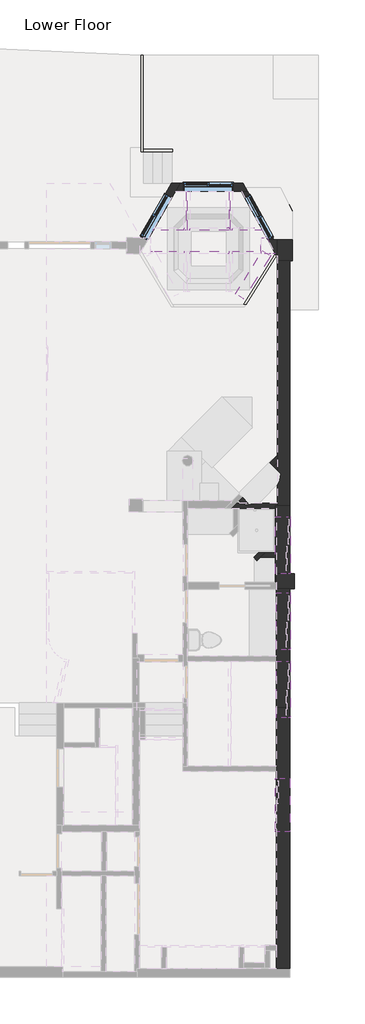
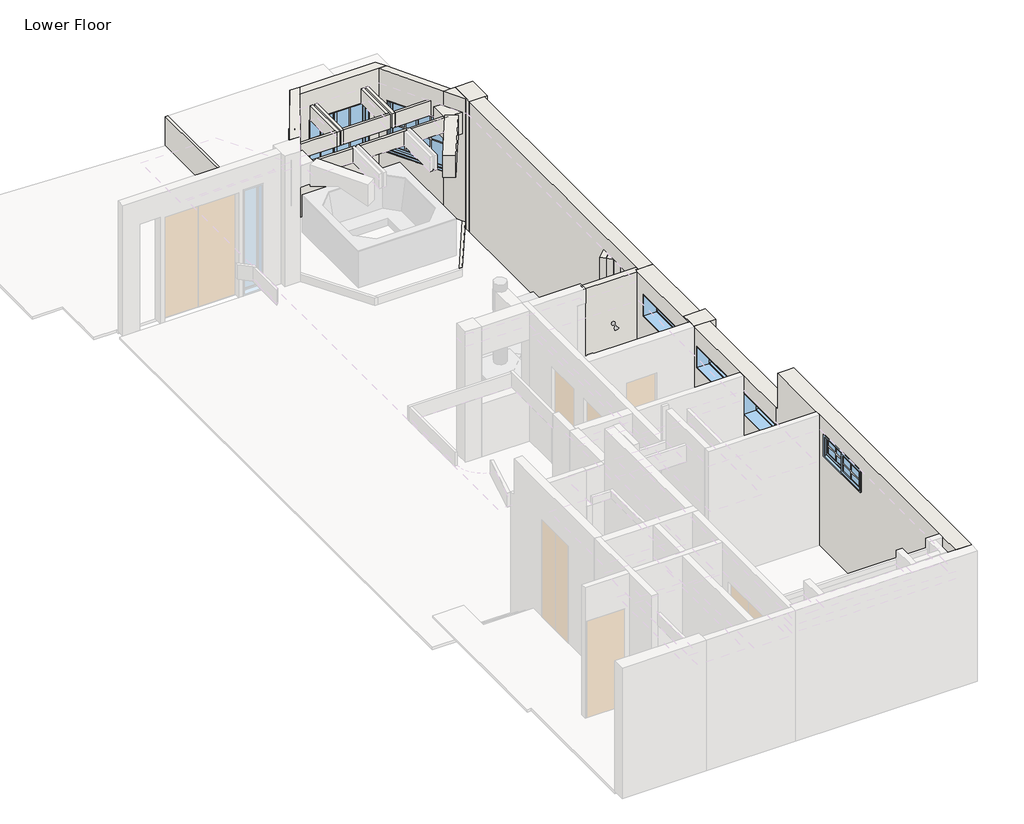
# One storey, part 3 of 4: 39 walls, 7 windows.
"""IFC4 building model written with IfcOpenShell, lengths in millimetres."""

from ifc_helpers import new_model, si_unit, frame, origin, place, context, project, spatial, polyline, circle_curve, outline, extrude, faceted_brep, transform, mapped, element, save
from ifc_brep_helpers import plane_surface, revolved_surface, advanced_brep
from components import default_1_4d84d3de, default_1_798206ea, default_1_4f1888e7, default_1_a34ab814, default_1_78cc1f86, default_1_0dcfb3a5

model = new_model("IFC4")

# Units and contexts
model_context = context("Model", 3, world=origin())
ifc_project = project(units=[si_unit("LENGTHUNIT", "METRE", prefix="MILLI")], contexts=[model_context])

# Site, building, storey
site = spatial("IfcSite", under=ifc_project)
building = spatial("IfcBuilding", under=site)
storey = spatial("IfcBuildingStorey", under=building, Name="Lower Floor", Elevation=-2743.2)

# Walls
placement = place(None, origin())
element("IfcWall", 1, ObjectType="Planitar - Generic 1' - 1/2\"", at=placement, inside=storey, context=model_context, shape_type="Brep", body=[
    faceted_brep([(1270.0, -2660.65, -1981.2), (1270.0, 2025.65, -1981.2), (1270.0, 2025.65, -2743.2), (1270.0, 3524.25, -2743.2), (1270.0, 3524.25, -812.8), (1270.0, 3289.3, -812.8), (1270.0, 3289.3, -355.6), (1270.0, 3524.25, -355.6), (1270.0, 3524.25, 0.0), (1270.0, 3467.1, 0.0), (1270.0, 3467.1, 762.0), (1270.0, -2660.65, 762.0), (1270.0, 1862.1375, 457.2), (1270.0, 1862.1375, 0.0), (1270.0, 592.1375, 0.0), (1270.0, 592.1375, 457.2), (952.5, 2025.65, -1981.2), (952.5, -2101.85, -1981.2), (952.5, -2216.15, -1981.2), (952.5, -2660.65, -1981.2), (952.5, -2660.65, 762.0), (952.5, -2216.15, 762.0), (952.5, -2101.85, 762.0), (952.5, 2025.65, 762.0), (952.5, 2139.95, 762.0), (952.5, 3467.1, 762.0), (952.5, 3467.1, 0.0), (952.5, 3524.25, 0.0), (952.5, 3524.25, -355.6), (952.5, 3289.3, -355.6), (952.5, 3289.3, -812.8), (952.5, 3524.25, -812.8), (952.5, 3524.25, -2743.2), (952.5, 2139.95, -2743.2), (952.5, 2025.65, -2743.2), (952.5, 1862.1375, 457.2), (952.5, 592.1375, 457.2), (952.5, 592.1375, 0.0), (952.5, 1862.1375, 0.0), (1104.9, 3467.1, 762.0)], [[[0, 1, 2, 3, 4, 5, 6, 7, 8, 9, 10, 11], [12, 13, 14, 15]], [[16, 17, 18, 19, 20, 21, 22, 23, 24, 25, 26, 27, 28, 29, 30, 31, 32, 33, 34], [35, 36, 37, 38]], [[0, 11, 20, 19]], [[1, 0, 19, 18, 17, 16]], [[11, 10, 39, 25, 24, 23, 22, 21, 20]], [[27, 8, 7, 28]], [[3, 32, 31, 4]], [[9, 8, 27, 26]], [[25, 39, 10, 9, 26]], [[3, 2, 34, 33, 32]], [[2, 1, 16, 34]], [[13, 12, 35, 38]], [[14, 13, 38, 37]], [[15, 14, 37, 36]], [[12, 15, 36, 35]], [[29, 6, 5, 30]], [[30, 5, 4, 31]], [[6, 29, 28, 7]]]),
])
element("IfcWall", 2, ObjectType="Planitar - Generic 11 1/2\"", at=placement, inside=storey, context=model_context, shape_type="AdvancedBrep", body=[
    advanced_brep(
    [(1270.0, 8318.5, -2743.2), (1270.0, 14128.75, -2743.2), (1270.0, 14128.75, 0.0), (1270.0, 8318.5, 0.0), (977.9, 14128.75, 0.0), (977.9, 14128.75, -2743.2), (977.9, 9509.0315, -2743.2), (977.9, 9347.3868898, -2743.2), (977.9, 9320.0723102, -2743.2), (977.9, 9158.4277, -2743.2), (977.9, 9158.4277, -304.8), (977.9, 8789.342644, -304.8), (977.9, 8789.342644, -2743.2), (977.9, 8375.65, -2743.2), (977.9, 8318.5, -2743.2), (977.9, 8318.5, 0.0), (977.9, 8375.65, 0.0), (1065.1673302, 9071.1603698, -2743.2), (1065.1673302, 9071.1603698, -304.8)],
    [
        (0, 1),
        (1, 2),
        (2, 3),
        (3, 0),
        (4, 5),
        (5, 6),
        (6, 7),
        (7, 8),
        (8, 9),
        (9, 10),
        (10, 11),
        (11, 12),
        (12, 13),
        (13, 14),
        (14, 15),
        (15, 16),
        (16, 4),
        (0, 14),
        (12, 17, circle_curve(frame((219.3431722, 9178.6568278, -2743.2), z_axis=(0.0, 0.0, 1.0), x_axis=(1.0, 0.0, 0.0)), 852.6277)),
        (17, 9),
        (5, 1),
        (4, 2),
        (15, 3),
        (10, 18),
        (18, 11, circle_curve(frame((219.3431722, 9178.6568278, -304.8), z_axis=(0.0, 0.0, -1.0), x_axis=(1.0, 0.0, 0.0)), 852.6277)),
        (18, 17),
    ],
    [
        plane_surface(frame((1270.0, 8369.3, -2743.2), z_axis=(1.0, 0.0, 0.0), x_axis=(0.0, 1.0, 0.0))),
        plane_surface(frame((977.9, 8369.3, -2743.2), z_axis=(-1.0, 0.0, 0.0), x_axis=(0.0, -1.0, 0.0))),
        plane_surface(frame((1270.0, 8318.5, -2743.2), z_axis=(0.0, 0.0, -1.0), x_axis=(-1.0, 0.0, 0.0))),
        plane_surface(frame((1270.0, 14128.75, -2743.2), z_axis=(0.0, 1.0, 0.0), x_axis=(-1.0, 0.0, 0.0))),
        plane_surface(frame((1270.0, 14128.75, 0.0), z_axis=(0.0, 0.0, 1.0), x_axis=(-1.0, 0.0, 0.0))),
        plane_surface(frame((1270.0, 8318.5, 0.0), z_axis=(0.0, -1.0, 0.0), x_axis=(-1.0, 0.0, 0.0))),
        plane_surface(frame((957.6708722, 9178.6568278, -304.8), z_axis=(0.0, 0.0, -1.0), x_axis=(0.0, -1.0, 0.0))),
        revolved_surface(polyline([(1071.9708722, 9178.6568278, -304.8000000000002), (1071.9708722, 9178.6568278, -2743.2)]), (219.3431722, 9178.6568278, -2743.2), (0.0, 0.0, 1.0)),
        plane_surface(frame((802.5981, 9333.7296, -2743.2), z_axis=(-0.7071067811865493, -0.7071067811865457, 0.0), x_axis=(0.7071067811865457, -0.7071067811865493, 0.0))),
    ],
    [
        (0, [[1, 2, 3, 4]]),
        (1, [[5, 6, 7, 8, 9, 10, 11, 12, 13, 14, 15, 16, 17]]),
        (2, [[-1, 18, -14, -13, 19, 20, -9, -8, -7, -6, 21]]),
        (3, [[-2, -21, -5, 22]]),
        (4, [[-3, -22, -17, -16, 23]]),
        (5, [[-4, -23, -15, -18]]),
        (6, [[24, 25, -11]]),
        (7, [[26, -19, -12, -25]]),
        (8, [[-26, -24, -10, -20]]),
    ],
),
])
element("IfcWall", 3, ObjectType="Planitar - Generic 1' - 2\"", at=placement, inside=storey, context=model_context, shape_type="Brep", body=[
    faceted_brep([(1333.5, 14128.75, -2743.2), (1333.5, 14624.05, -2743.2), (1333.5, 14624.05, -2133.6), (1333.5, 14624.05, -2032.0), (1333.5, 14624.05, 0.0), (1333.5, 14128.75, 0.0), (977.9, 14128.75, -2743.2), (977.9, 14128.75, 0.0), (977.9, 14243.05, 0.0), (977.9, 14624.05, 0.0), (977.9, 14624.05, -2743.2), (977.9, 14243.05, -2743.2), (1270.0, 14128.75, -2743.2), (1270.0, 14128.75, 0.0)], [[[0, 1, 2, 3, 4, 5]], [[6, 7, 8, 9, 10, 11]], [[1, 0, 12, 6, 11, 10]], [[5, 4, 9, 8, 7, 13]], [[0, 5, 13, 7, 6, 12]], [[1, 10, 9, 4, 3, 2]]]),
])
element("IfcWall", 4, ObjectType="Planitar - Generic 7\"", at=placement, inside=storey, context=model_context, shape_type="Brep", body=[
    faceted_brep([(-2069.9799429, 14674.85, -2743.2), (-1441.5518, 15773.4, -2743.2), (-1332.5758215, 15963.9, -2743.2), (-1332.5758215, 15963.9, 0.0), (-1441.5518, 15773.4, 0.0), (-2069.9799429, 14674.85, 0.0), (-2069.9799429, 14674.85, -304.8), (-2069.9799429, 14674.85, -609.6), (-1968.2690296, 14852.65, -609.6), (-1939.2087687, 14903.45, -609.6), (-1524.0850409, 15629.1243293, -609.6), (-1524.0850409, 15629.1243293, -1701.8), (-2069.9799429, 14674.85, -1701.8), (-1537.4122193, 15963.9, -2743.2), (-1689.9785893, 15697.2, -2743.2), (-1719.0388502, 15646.4, -2743.2), (-2274.8163408, 14674.85, -2743.2), (-2274.8163408, 14674.85, 0.0), (-1537.4122193, 15963.9, 0.0), (-1678.4171827, 15717.4103984, -1701.8), (-1678.4171827, 15717.4103984, -609.6), (-2258.58278, 14703.2277523, -609.6), (-2258.58278, 14703.2277523, -1701.8), (-2208.9758677, 14674.85, -1701.8), (-2208.9758677, 14674.85, -609.6), (-2208.9758677, 14674.85, -762.0)], [[[0, 1, 2, 3, 4, 5, 6, 7, 8, 9, 10, 11, 12]], [[13, 14, 15, 16, 17, 18], [19, 20, 21, 22]], [[2, 1, 0, 16, 15, 14, 13]], [[5, 4, 3, 18, 17]], [[3, 2, 13, 18]], [[10, 20, 19, 11]], [[11, 19, 22, 23, 12]], [[23, 22, 21, 24, 25]], [[20, 10, 9, 8, 7, 24, 21]], [[16, 0, 12, 23, 25, 24, 7, 6, 5, 17]]]),
])
element("IfcWall", 5, ObjectType="Planitar - Generic 7 1/2\"", at=placement, inside=storey, context=model_context, shape_type="Brep", body=[
    faceted_brep([(-1441.5518, 15773.4, -2743.2), (125.7251, 15773.4, -2743.2), (270.3252409, 15773.4, -2743.2), (270.3252409, 15773.4, 0.0), (125.7251, 15773.4, 0.0), (-1441.5518, 15773.4, 0.0), (-64.838534, 15773.4, -609.6), (-64.838534, 15773.4, -1701.8), (-1258.638534, 15773.4, -1701.8), (-1258.638534, 15773.4, -609.6), (-1238.3518, 15773.4, -609.6), (-1187.5518, 15773.4, -609.6), (-1149.4518, 15773.4, -609.6), (-1098.6518, 15773.4, -609.6), (-224.825268, 15773.4, -609.6), (-174.025268, 15773.4, -609.6), (-134.688534, 15773.4, -609.6), (-83.888534, 15773.4, -609.6), (-1332.5758215, 15963.9, -2743.2), (-1332.5758215, 15963.9, 0.0), (166.6167471, 15963.9, 0.0), (166.6167471, 15963.9, -2743.2), (-64.838534, 15963.9, -609.6), (-1258.638534, 15963.9, -609.6), (-1258.638534, 15963.9, -1701.8), (-64.838534, 15963.9, -1701.8)], [[[0, 1, 2, 3, 4, 5], [6, 7, 8, 9, 10, 11, 12, 13, 14, 15, 16, 17]], [[18, 19, 20, 21], [22, 23, 24, 25]], [[2, 1, 0, 18, 21]], [[5, 4, 3, 20, 19]], [[0, 5, 19, 18]], [[7, 6, 22, 25]], [[8, 7, 25, 24]], [[9, 8, 24, 23]], [[6, 17, 16, 15, 14, 13, 12, 11, 10, 9, 23, 22]], [[2, 21, 20, 3]]]),
])
element("IfcWall", 6, ObjectType="Planitar - Generic 5\"", at=placement, inside=storey, context=model_context, shape_type="Brep", body=[
    faceted_brep([(125.7251, 15773.4, -2743.2), (751.4330124, 14624.05, -2743.2), (751.4330124, 14624.05, -1701.8), (202.1206046, 15633.0706682, -1701.8), (202.1206046, 15633.0706682, -609.6), (599.3272216, 14903.45, -609.6), (626.9828199, 14852.65, -609.6), (751.4330124, 14624.05, -609.6), (751.4330124, 14624.05, 0.0), (125.7251, 15773.4, 0.0), (896.0331533, 14624.05, -2743.2), (270.3252409, 15773.4, -2743.2), (270.3252409, 15773.4, 0.0), (896.0331533, 14624.05, 0.0), (872.3205239, 14667.6072415, -1701.8), (872.3205239, 14667.6072415, -609.6), (313.6626813, 15693.7943468, -609.6), (313.6626813, 15693.7943468, -1701.8), (792.3111224, 14624.05, -609.6), (792.3111224, 14624.05, -1701.8)], [[[0, 1, 2, 3, 4, 5, 6, 7, 8, 9]], [[10, 11, 12, 13], [14, 15, 16, 17]], [[1, 0, 11, 10]], [[9, 8, 13, 12]], [[18, 15, 14, 19]], [[19, 14, 17, 3, 2]], [[3, 17, 16, 4]], [[15, 18, 7, 6, 5, 4, 16]], [[1, 10, 13, 8, 7, 18, 19, 2]], [[9, 12, 11, 0]]]),
])
element("IfcWall", 7, ObjectType="Planitar - Generic 1' - 3\"", at=placement, inside=storey, context=model_context, shape_type="Brep", body=[
    faceted_brep([(977.9, 14624.05, -2743.2), (896.0331533, 14624.05, -2743.2), (751.4330124, 14624.05, -2743.2), (751.4330124, 14624.05, -1701.8), (792.3111224, 14624.05, -1701.8), (792.3111224, 14624.05, -609.6), (751.4330124, 14624.05, -609.6), (751.4330124, 14624.05, 0.0), (896.0331533, 14624.05, 0.0), (977.9, 14624.05, 0.0), (958.85, 14243.05, -2743.2), (977.9, 14243.05, -2743.2), (977.9, 14243.05, 0.0), (958.85, 14243.05, 0.0), (760.7784472, 14606.883563, -609.6), (760.7784472, 14606.883563, -1701.8)], [[[0, 1, 2, 3, 4, 5, 6, 7, 8, 9]], [[10, 11, 12, 13]], [[2, 1, 0, 11, 10]], [[9, 8, 7, 13, 12]], [[14, 5, 4, 15]], [[15, 4, 3]], [[5, 14, 6]], [[2, 10, 13, 7, 6, 14, 15, 3]], [[9, 12, 11, 0]]]),
])
element("IfcWall", 8, ObjectType="Planitar - Generic 4 1/2\"", at=placement, inside=storey, context=model_context, shape_type="AdvancedBrep", body=[
    advanced_brep(
    [(-108.1368898, 8261.35, -2743.2), (-69.85, 8261.35, -2743.2), (44.45, 8261.35, -2743.2), (927.1, 8261.35, -2743.2), (927.1, 8261.35, 0.0), (-131.8091949, 8261.35, 0.0), (-131.8091949, 8261.35, -304.8), (-108.1368898, 8261.35, -304.8), (977.9, 8375.65, 0.0), (977.9, 8375.65, -2743.2), (505.968414, 8375.65, -2743.2), (505.968414, 8375.65, -304.8), (284.0223, 8375.65, -304.8), (195.0690884, 8375.65, -304.8), (195.0690884, 8375.65, -2743.2), (122.3776898, 8375.65, -2743.2), (6.1631102, 8375.65, -2743.2), (6.1631102, 8375.65, -304.8), (-131.8091949, 8375.65, -304.8), (-131.8091949, 8375.65, 0.0), (193.5808676, 8326.4184231, -2743.2), (977.9, 8318.5, -2743.2), (927.1, 8318.5, -2743.2), (927.1, 8318.5, 0.0), (977.9, 8318.5, 0.0), (193.5808676, 8326.4184231, -304.8)],
    [
        (0, 1),
        (1, 2),
        (2, 3),
        (3, 4),
        (4, 5),
        (5, 6),
        (6, 7),
        (7, 0),
        (8, 9),
        (9, 10),
        (10, 11),
        (11, 12),
        (12, 13),
        (13, 14),
        (14, 15),
        (15, 16),
        (16, 17),
        (17, 18),
        (18, 19),
        (19, 8),
        (0, 16),
        (14, 20),
        (20, 10, circle_curve(frame((219.3431722, 9178.6568278, -2743.2), z_axis=(0.0, 0.0, 1.0), x_axis=(1.0, 0.0, 0.0)), 852.6277)),
        (9, 21),
        (21, 22),
        (22, 3),
        (4, 23),
        (23, 24),
        (24, 8),
        (19, 5),
        (22, 23),
        (21, 24),
        (18, 6),
        (17, 7),
        (11, 25, circle_curve(frame((219.3431722, 9178.6568278, -304.8), z_axis=(0.0, 0.0, -1.0), x_axis=(1.0, 0.0, 0.0)), 852.6277)),
        (25, 13),
        (25, 20),
    ],
    [
        plane_surface(frame((-107.95, 8261.35, -2743.2), z_axis=(0.0, -1.0, 0.0), x_axis=(1.0, 0.0, 0.0))),
        plane_surface(frame((-107.95, 8375.65, -2743.2), z_axis=(0.0, 1.0, 0.0), x_axis=(-1.0, 0.0, 0.0))),
        plane_surface(frame((-131.8091949, 8261.35, -2743.2), z_axis=(0.0, 0.0, -1.0), x_axis=(0.0, 1.0, 0.0))),
        plane_surface(frame((1123.95, 8261.35, 0.0), z_axis=(0.0, 0.0, 1.0), x_axis=(0.0, 1.0, 0.0))),
        plane_surface(frame((927.1, 7369.175, -2880.36), z_axis=(1.0, 0.0, 0.0), x_axis=(0.0, 1.0, 0.0))),
        plane_surface(frame((952.5, 8318.5, -2880.36), z_axis=(0.0, -1.0, 0.0), x_axis=(1.0, 0.0, 0.0))),
        plane_surface(frame((977.9, 11223.625, -2880.36), z_axis=(1.0, 0.0, 0.0), x_axis=(0.0, 1.0, 0.0))),
        plane_surface(frame((-131.8091949, 8261.35, 0.0), z_axis=(-1.0, 0.0, 0.0), x_axis=(0.0, 1.0, 0.0))),
        plane_surface(frame((-131.8091949, 8261.35, -304.8), z_axis=(0.0, 0.0, -1.0), x_axis=(1.0, 0.0, 0.0))),
        plane_surface(frame((23.1244146, 8392.6113044, -2743.2), z_axis=(-0.7071067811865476, 0.7071067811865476, 0.0), x_axis=(0.7071067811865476, 0.7071067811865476, 0.0))),
        plane_surface(frame((957.6708722, 9178.6568278, -304.8), z_axis=(0.0, 0.0, -1.0), x_axis=(0.0, -1.0, 0.0))),
        plane_surface(frame((197.0344634, 8440.6662357, -304.8), z_axis=(0.9995434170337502, -0.030215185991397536, 0.0), x_axis=(0.0, 0.0, -1.0))),
        revolved_surface(polyline([(1071.9708722, 9178.6568278, -304.8000000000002), (1071.9708722, 9178.6568278, -2743.2)]), (219.3431722, 9178.6568278, -2743.2), (0.0, 0.0, 1.0)),
    ],
    [
        (0, [[1, 2, 3, 4, 5, 6, 7, 8]]),
        (1, [[9, 10, 11, 12, 13, 14, 15, 16, 17, 18, 19, 20]]),
        (2, [[-3, -2, -1, 21, -16, -15, 22, 23, -10, 24, 25, 26]]),
        (3, [[-5, 27, 28, 29, -20, 30]]),
        (4, [[-4, -26, 31, -27]]),
        (5, [[-25, 32, -28, -31]]),
        (6, [[-9, -29, -32, -24]]),
        (7, [[-30, -19, 33, -6]]),
        (8, [[-33, -18, 34, -7]]),
        (9, [[-8, -34, -17, -21]]),
        (10, [[35, 36, -13, -12]]),
        (11, [[37, -22, -14, -36]]),
        (12, [[-37, -35, -11, -23]]),
    ],
),
])
element("IfcWall", 9, ObjectType="Planitar - Generic 1' - 1 1/2\"", at=placement, inside=storey, context=model_context, shape_type="Brep", body=[
    faceted_brep([(1270.0, 6705.6, -2743.2), (1270.0, 8318.5, -2743.2), (1270.0, 8318.5, 0.0), (1270.0, 6705.6, 0.0), (1270.0, 6708.775, -812.8), (1270.0, 6708.775, -355.6), (1270.0, 8054.975, -355.6), (1270.0, 8054.975, -812.8), (927.1, 8318.5, -2743.2), (927.1, 8261.35, -2743.2), (927.1, 7207.25, -2743.2), (927.1, 7092.95, -2743.2), (927.1, 6502.4, -2743.2), (927.1, 6502.4, 0.0), (927.1, 8261.35, 0.0), (927.1, 8318.5, 0.0), (927.1, 6708.775, -355.6), (927.1, 6708.775, -812.8), (927.1, 8054.975, -812.8), (927.1, 8054.975, -355.6), (952.5, 6705.6, -2743.2), (952.5, 6502.4, -2743.2), (977.9, 8318.5, -2743.2), (977.9, 8318.5, 0.0), (952.5, 6502.4, 0.0), (952.5, 6705.6, 0.0)], [[[0, 1, 2, 3], [4, 5, 6, 7]], [[8, 9, 10, 11, 12, 13, 14, 15], [16, 17, 18, 19]], [[1, 0, 20, 21, 12, 11, 10, 9, 8, 22]], [[2, 1, 22, 8, 15, 23]], [[3, 2, 23, 15, 14, 13, 24, 25]], [[0, 3, 25, 20]], [[25, 24, 21, 20]], [[13, 12, 21, 24]], [[16, 5, 4, 17]], [[17, 4, 7, 18]], [[18, 7, 6, 19]], [[5, 16, 19, 6]]]),
])
element("IfcWall", 10, ObjectType="Planitar - Generic 1' - 2\"", at=placement, inside=storey, context=model_context, shape_type="Brep", body=[
    faceted_brep([(952.5, 6350.0, -2743.2), (1270.0, 6350.0, -2743.2), (1384.3, 6350.0, -2743.2), (1384.3, 6350.0, 0.0), (1270.0, 6350.0, 0.0), (952.5, 6350.0, 0.0), (952.5, 6705.6, -2743.2), (952.5, 6705.6, 0.0), (1270.0, 6705.6, 0.0), (1384.3, 6705.6, 0.0), (1384.3, 6705.6, -2743.2), (1270.0, 6705.6, -2743.2), (952.5, 6502.4, -2743.2), (952.5, 6502.4, 0.0)], [[[0, 1, 2, 3, 4, 5]], [[6, 7, 8, 9, 10, 11]], [[2, 1, 0, 12, 6, 11, 10]], [[3, 2, 10, 9]], [[5, 4, 3, 9, 8, 7, 13]], [[0, 5, 13, 7, 6, 12]]]),
])
element("IfcWall", 11, ObjectType="Planitar - Generic 1' - 1/2\"", at=placement, inside=storey, context=model_context, shape_type="Brep", body=[
    faceted_brep([(1270.0, 3524.25, -2743.2), (1270.0, 6350.0, -2743.2), (1270.0, 6350.0, 0.0), (1270.0, 3524.25, 0.0), (1270.0, 3524.25, -355.6), (1270.0, 4635.5, -355.6), (1270.0, 4635.5, -812.8), (1270.0, 3524.25, -812.8), (1270.0, 4905.375, -812.8), (1270.0, 4905.375, -355.6), (1270.0, 6251.575, -355.6), (1270.0, 6251.575, -812.8), (952.5, 6350.0, -2743.2), (952.5, 6337.3, -2743.2), (952.5, 4749.8, -2743.2), (952.5, 4635.5, -2743.2), (952.5, 3524.25, -2743.2), (952.5, 3524.25, -812.8), (952.5, 4635.5, -812.8), (952.5, 4635.5, -355.6), (952.5, 3524.25, -355.6), (952.5, 3524.25, 0.0), (952.5, 4635.5, 0.0), (952.5, 4749.8, 0.0), (952.5, 6337.3, 0.0), (952.5, 6350.0, 0.0), (952.5, 4905.375, -355.6), (952.5, 4905.375, -812.8), (952.5, 6251.575, -812.8), (952.5, 6251.575, -355.6)], [[[0, 1, 2, 3, 4, 5, 6, 7], [8, 9, 10, 11]], [[12, 13, 14, 15, 16, 17, 18, 19, 20, 21, 22, 23, 24, 25], [26, 27, 28, 29]], [[1, 0, 16, 15, 14, 13, 12]], [[3, 2, 25, 24, 23, 22, 21]], [[3, 21, 20, 4]], [[16, 0, 7, 17]], [[2, 1, 12, 25]], [[26, 9, 8, 27]], [[27, 8, 11, 28]], [[9, 26, 29, 10]], [[10, 29, 28, 11]], [[7, 6, 18, 17]], [[5, 4, 20, 19]], [[5, 19, 18, 6]]]),
])
element("IfcWall", 12, ObjectType="Planitar - Generic 2\"", at=placement, inside=storey, context=model_context, shape_type="SweptSolid", body=[
    extrude(outline(polyline([(958.85, 14243.05), (228.7662304, 13081.0), (168.7721827, 13081.0), (930.9983909, 14294.2100481), (958.85, 14243.05)])), frame((0.0, 0.0, -2743.2), z_axis=(0.0, 0.0, 1.0), x_axis=(1.0, 0.0, 0.0)), (0.0, 0.0, 1.0), 152.4),
])
element("IfcWall", 13, ObjectType="Planitar - Generic 4 1/2\"", at=placement, inside=storey, context=model_context, shape_type="SweptSolid", body=[
    extrude(outline(polyline([(690.4223, 7207.25), (927.1, 7207.25), (927.1, 7092.95), (576.1223, 7092.95), (690.4223, 7207.25)])), frame((0.0, 0.0, -2743.2), z_axis=(0.0, 0.0, 1.0), x_axis=(1.0, 0.0, 0.0)), (0.0, 0.0, 1.0), 1346.2),
])
element("IfcWall", 14, ObjectType="Planitar - Generic 4 1/2\"", at=placement, inside=storey, context=model_context, shape_type="Brep", body=[
    faceted_brep([(528.7776898, 7207.25, -2743.2), (416.7888449, 7095.2611551, -2743.2), (416.7888449, 7095.2611551, -1397.0), (528.7776898, 7207.25, -1397.0), (690.4223, 7207.25, -2743.2), (690.4223, 7207.25, -1397.0), (576.1223, 7092.95, -1397.0), (497.61115, 7014.43885, -1397.0), (497.61115, 7014.43885, -2743.2), (576.1223, 7092.95, -2743.2)], [[[0, 1, 2, 3]], [[4, 5, 6, 7, 8, 9]], [[1, 0, 4, 9, 8]], [[2, 1, 8, 7]], [[3, 2, 7, 6, 5]], [[0, 3, 5, 4]]]),
])
element("IfcWall", 15, ObjectType="Planitar - Generic 1' - 3\"", at=placement, inside=storey, context=model_context, shape_type="Brep", body=[
    faceted_brep([(582.3683841, 14293.85, -762.0), (603.25, 14293.85, -762.0), (738.1913232, 14293.85, -762.0), (819.15, 14293.85, -762.0), (931.1944017, 14293.85, -762.0), (931.1944017, 14293.85, -304.8), (819.15, 14293.85, -304.8), (738.1913232, 14293.85, -304.8), (582.3683841, 14293.85, -304.8), (582.3683841, 14293.85, -609.6), (723.7774141, 14674.85, -762.0), (582.3683841, 14674.85, -762.0), (582.3683841, 14674.85, -304.8), (723.7774141, 14674.85, -304.8), (723.7774141, 14674.85, -609.6), (760.7784472, 14606.883563, -762.0), (582.3683841, 14344.65, -304.8)], [[[0, 1, 2, 3, 4, 5, 6, 7, 8, 9]], [[10, 11, 12, 13, 14]], [[4, 3, 2, 1, 0, 11, 10, 15]], [[8, 7, 6, 5, 13, 12, 16]], [[0, 9, 8, 16, 12, 11]], [[5, 4, 15, 10, 14, 13]]]),
])
element("IfcWall", 16, ObjectType="Planitar - Generic 9\"", at=placement, inside=storey, context=model_context, shape_type="AdvancedBrep", body=[
    advanced_brep(
    [(182.6783418, 13217.5225814, -762.0), (819.94208, 14243.05, -762.0), (819.94208, 14243.05, -304.8), (182.6783418, 13217.5225814, -304.8), (-11.4874901, 13338.1774186, -762.0), (-11.4874901, 13338.1774186, -304.8), (625.7762481, 14363.7048373, -304.8), (625.7762481, 14363.7048373, -762.0), (809.6065169, 14249.472529, -762.0), (738.1913232, 14293.85, -762.0), (738.1913232, 14293.85, -304.8), (809.6065169, 14249.472529, -304.8)],
    [
        (0, 1, circle_curve(frame((501.3102109, 13730.2862907, -1557.183685), z_axis=(-0.8493693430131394, 0.5277989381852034, 0.0), x_axis=(-0.5277989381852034, -0.8493693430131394, 0.0)), 998.383685)),
        (1, 2),
        (2, 3),
        (3, 0),
        (4, 5),
        (5, 6),
        (6, 7),
        (7, 4, circle_curve(frame((307.144379, 13850.941128, -1557.183685), z_axis=(0.8493693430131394, -0.5277989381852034, 0.0), x_axis=(-0.5277989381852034, -0.8493693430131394, 0.0)), 998.383685)),
        (1, 8),
        (8, 9),
        (9, 7),
        (6, 10),
        (10, 11),
        (11, 2),
        (5, 3),
        (4, 0),
    ],
    [
        plane_surface(frame((-25.635638, 12882.2897961, -1557.183685), z_axis=(0.8493693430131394, -0.5277989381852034, 0.0), x_axis=(0.0, 0.0, 1.0))),
        plane_surface(frame((-219.8014698, 13002.9446333, -1557.183685), z_axis=(-0.8493693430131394, 0.5277989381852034, 0.0), x_axis=(0.0, 0.0, -1.0))),
        plane_surface(frame((819.94208, 14243.05, -762.0), z_axis=(0.5277989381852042, 0.8493693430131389, 0.0), x_axis=(-0.8493693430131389, 0.5277989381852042, 0.0))),
        plane_surface(frame((819.94208, 14243.05, -304.8), z_axis=(0.0, 0.0, 1.0000000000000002), x_axis=(-0.8493693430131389, 0.5277989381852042, 0.0))),
        plane_surface(frame((182.6783418, 13217.5225814, -304.8), z_axis=(-0.5277989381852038, -0.849369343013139, 0.0), x_axis=(-0.849369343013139, 0.5277989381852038, 0.0))),
        revolved_surface(polyline([(-219.80146984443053, 13002.944633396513, -1557.183685), (-25.635637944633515, 12882.289796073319, -1557.183685)]), (307.144379, 13850.941128, -1557.183685), (-0.8493693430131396, 0.5277989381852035, 0.0)),
    ],
    [
        (0, [[1, 2, 3, 4]]),
        (1, [[5, 6, 7, 8]]),
        (2, [[-2, 9, 10, 11, -7, 12, 13, 14]]),
        (3, [[-3, -14, -13, -12, -6, 15]]),
        (4, [[-4, -15, -5, 16]]),
        (5, [[-1, -16, -8, -11, -10, -9]]),
    ],
),
])
element("IfcWall", 17, ObjectType="Planitar - Generic 2\"", at=placement, inside=storey, context=model_context, shape_type="Brep", body=[
    faceted_brep([(-1238.3518, 15773.4, -609.6), (-1238.3518, 14903.45, -609.6), (-1238.3518, 14852.65, -609.6), (-1238.3518, 14852.65, -304.8), (-1238.3518, 14903.45, -304.8), (-1238.3518, 15773.4, -304.8), (-1187.5518, 15773.4, -609.6), (-1187.5518, 15773.4, -304.8), (-1187.5518, 14852.65, -304.8), (-1187.5518, 14852.65, -609.6)], [[[0, 1, 2, 3, 4, 5]], [[6, 7, 8, 9]], [[2, 1, 0, 6, 9]], [[5, 4, 3, 8, 7]], [[0, 5, 7, 6]], [[3, 2, 9, 8]]]),
])
element("IfcWall", 18, ObjectType="Planitar - Generic 2\"", at=placement, inside=storey, context=model_context, shape_type="SweptSolid", body=[
    extrude(outline(polyline([(-1939.2087687, 14903.45), (-1238.3518, 14903.45), (-1238.3518, 14852.65), (-1968.2690296, 14852.65), (-1939.2087687, 14903.45)])), frame((0.0, 0.0, -609.6), z_axis=(0.0, 0.0, 1.0), x_axis=(1.0, 0.0, 0.0)), (0.0, 0.0, 1.0), 304.8),
])
element("IfcWall", 19, ObjectType="Planitar - Generic 2\"", at=placement, inside=storey, context=model_context, shape_type="Brep", body=[
    faceted_brep([(-1149.4518, 15773.4, -609.6), (-1149.4518, 14852.65, -609.6), (-1149.4518, 14852.65, -304.8), (-1149.4518, 15773.4, -304.8), (-1098.6518, 15773.4, -609.6), (-1098.6518, 15773.4, -304.8), (-1098.6518, 14903.45, -304.8), (-1098.6518, 14852.65, -304.8), (-1098.6518, 14852.65, -609.6), (-1098.6518, 14903.45, -609.6)], [[[0, 1, 2, 3]], [[4, 5, 6, 7, 8, 9]], [[1, 0, 4, 9, 8]], [[3, 2, 7, 6, 5]], [[0, 3, 5, 4]], [[2, 1, 8, 7]]]),
])
element("IfcWall", 20, ObjectType="Planitar - Generic 2\"", at=placement, inside=storey, context=model_context, shape_type="Brep", body=[
    faceted_brep([(-1098.6518, 14852.65, -609.6), (-174.025268, 14852.65, -609.6), (-174.025268, 14852.65, -304.8), (-1098.6518, 14852.65, -304.8), (-1098.6518, 14903.45, -609.6), (-1098.6518, 14903.45, -304.8), (-224.825268, 14903.45, -304.8), (-174.025268, 14903.45, -304.8), (-174.025268, 14903.45, -609.6), (-224.825268, 14903.45, -609.6)], [[[0, 1, 2, 3]], [[4, 5, 6, 7, 8, 9]], [[1, 0, 4, 9, 8]], [[3, 2, 7, 6, 5]], [[0, 3, 5, 4]], [[2, 1, 8, 7]]]),
])
element("IfcWall", 21, ObjectType="Planitar - Generic 2\"", at=placement, inside=storey, context=model_context, shape_type="SweptSolid", body=[
    extrude(outline(polyline([(-174.025268, 15773.4), (-174.025268, 14903.45), (-224.825268, 14903.45), (-224.825268, 15773.4), (-174.025268, 15773.4)])), frame((0.0, 0.0, -609.6), z_axis=(0.0, 0.0, 1.0), x_axis=(1.0, 0.0, 0.0)), (0.0, 0.0, 1.0), 304.8),
])
element("IfcWall", 22, ObjectType="Planitar - Generic 2\"", at=placement, inside=storey, context=model_context, shape_type="Brep", body=[
    faceted_brep([(-134.688534, 15773.4, -609.6), (-134.688534, 14852.65, -609.6), (-134.688534, 14852.65, -304.8), (-134.688534, 15773.4, -304.8), (-83.888534, 15773.4, -609.6), (-83.888534, 15773.4, -304.8), (-83.888534, 14903.45, -304.8), (-83.888534, 14852.65, -304.8), (-83.888534, 14852.65, -609.6), (-83.888534, 14903.45, -609.6)], [[[0, 1, 2, 3]], [[4, 5, 6, 7, 8, 9]], [[1, 0, 4, 9, 8]], [[3, 2, 7, 6, 5]], [[0, 3, 5, 4]], [[2, 1, 8, 7]]]),
])
element("IfcWall", 23, ObjectType="Planitar - Generic 2\"", at=placement, inside=storey, context=model_context, shape_type="SweptSolid", body=[
    extrude(outline(polyline([(626.9828199, 14852.65), (-83.888534, 14852.65), (-83.888534, 14903.45), (599.3272216, 14903.45), (626.9828199, 14852.65)])), frame((0.0, 0.0, -609.6), z_axis=(0.0, 0.0, 1.0), x_axis=(1.0, 0.0, 0.0)), (0.0, 0.0, 1.0), 304.8),
])
element("IfcWall", 24, ObjectType="Planitar - Generic 2\"", at=placement, inside=storey, context=model_context, shape_type="Brep", body=[
    faceted_brep([(-1238.3518, 14344.65, -609.6), (-1936.75, 14344.65, -609.6), (-2027.3741204, 14344.65, -609.6), (-2027.3741204, 14344.65, -304.8), (-1936.75, 14344.65, -304.8), (-1238.3518, 14344.65, -304.8), (-1238.3518, 14293.85, -609.6), (-1238.3518, 14293.85, -304.8), (-2026.9301152, 14293.85, -304.8), (-2027.3741204, 14293.85, -304.8), (-2027.3741204, 14293.85, -609.6), (-2026.9301152, 14293.85, -609.6)], [[[0, 1, 2, 3, 4, 5]], [[6, 7, 8, 9, 10, 11]], [[2, 1, 0, 6, 11, 10]], [[3, 2, 10, 9]], [[5, 4, 3, 9, 8, 7]], [[0, 5, 7, 6]]]),
])
element("IfcWall", 25, ObjectType="Planitar - Generic 2\"", at=placement, inside=storey, context=model_context, shape_type="Brep", body=[
    faceted_brep([(-1098.6518, 14293.85, -609.6), (-224.825268, 14293.85, -609.6), (-174.025268, 14293.85, -609.6), (-174.025268, 14293.85, -304.8), (-224.825268, 14293.85, -304.8), (-1098.6518, 14293.85, -304.8), (-1098.6518, 14344.65, -609.6), (-1098.6518, 14344.65, -304.8), (-174.025268, 14344.65, -304.8), (-174.025268, 14344.65, -609.6)], [[[0, 1, 2, 3, 4, 5]], [[6, 7, 8, 9]], [[2, 1, 0, 6, 9]], [[5, 4, 3, 8, 7]], [[0, 5, 7, 6]], [[3, 2, 9, 8]]]),
])
element("IfcWall", 26, ObjectType="Planitar - Generic 2\"", at=placement, inside=storey, context=model_context, shape_type="SweptSolid", body=[
    extrude(outline(polyline([(582.3683841, 14293.85), (-85.125268, 14293.85), (-85.125268, 14344.65), (582.3683841, 14344.65), (582.3683841, 14293.85)])), frame((0.0, 0.0, -609.6), z_axis=(0.0, 0.0, 1.0), x_axis=(1.0, 0.0, 0.0)), (0.0, 0.0, 1.0), 304.8),
])
element("IfcWall", 27, ObjectType="Planitar - Generic 4 1/2\"", at=placement, inside=storey, context=model_context, shape_type="Brep", body=[
    faceted_brep([(64.2704, 8433.7572898, -2743.2), (122.3776898, 8375.65, -2743.2), (122.3776898, 8375.65, -304.8), (64.2704, 8433.7572898, -304.8), (145.0927051, 8514.5795949, -2743.2), (145.0927051, 8514.5795949, -304.8), (219.3431722, 8440.3291278, -304.8), (284.0223, 8375.65, -304.8), (284.0223, 8375.65, -2743.2), (219.3431722, 8440.3291278, -2743.2), (195.0690884, 8375.65, -2743.2), (195.0690884, 8375.65, -304.8)], [[[0, 1, 2, 3]], [[4, 5, 6, 7, 8, 9]], [[1, 0, 4, 9, 8, 10]], [[3, 2, 11, 7, 6, 5]], [[0, 3, 5, 4]], [[2, 1, 10, 8, 7, 11]]]),
])
element("IfcWall", 28, ObjectType="Planitar - Generic 4 1/2\"", at=placement, inside=storey, context=model_context, shape_type="Brep", body=[
    faceted_brep([(883.4204051, 9252.9072949, -2743.2), (957.6708722, 9178.6568278, -2743.2), (977.9, 9158.4277, -2743.2), (977.9, 9158.4277, -304.8), (957.6708722, 9178.6568278, -304.8), (883.4204051, 9252.9072949, -304.8), (964.2427102, 9333.7296, -2743.2), (964.2427102, 9333.7296, -304.8), (977.9, 9320.0723102, -304.8), (977.9, 9320.0723102, -2743.2)], [[[0, 1, 2, 3, 4, 5]], [[6, 7, 8, 9]], [[2, 1, 0, 6, 9]], [[5, 4, 3, 8, 7]], [[3, 2, 9, 8]], [[0, 5, 7, 6]]]),
])
element("IfcWall", 29, ObjectType="Planitar - Generic 4 1/2\"", at=placement, inside=storey, context=model_context, shape_type="Brep", body=[
    faceted_brep([(883.4204051, 9252.9072949, -2743.2), (964.2427102, 9333.7296, -2743.2), (977.9, 9347.3868898, -2743.2), (977.9, 9347.3868898, -304.8), (964.2427102, 9333.7296, -304.8), (883.4204051, 9252.9072949, -304.8), (802.5981, 9333.7296, -2743.2), (802.5981, 9333.7296, -304.8), (977.9, 9509.0315, -304.8), (977.9, 9509.0315, -2743.2)], [[[0, 1, 2, 3, 4, 5]], [[6, 7, 8, 9]], [[2, 1, 0, 6, 9]], [[5, 4, 3, 8, 7]], [[0, 5, 7, 6]], [[3, 2, 9, 8]]]),
])
element("IfcWall", 30, ObjectType="Planitar - Generic 2\"", at=placement, inside=storey, context=model_context, shape_type="Brep", body=[
    faceted_brep([(-2260.6, 18992.85, -2743.2), (-2260.6, 16808.45, -2743.2), (-2260.6, 16757.65, -2743.2), (-2260.6, 16713.2, -2743.2), (-2260.6, 16713.2, -2133.6), (-2260.6, 18992.85, -2133.6), (-2209.8, 18992.85, -2743.2), (-2209.8, 18992.85, -2133.6), (-2209.8, 16764.0, -2133.6), (-2209.8, 16713.2, -2133.6), (-2209.8, 16713.2, -2743.2), (-2209.8, 16764.0, -2743.2)], [[[0, 1, 2, 3, 4, 5]], [[6, 7, 8, 9, 10, 11]], [[3, 2, 1, 0, 6, 11, 10]], [[5, 4, 9, 8, 7]], [[0, 5, 7, 6]], [[4, 3, 10, 9]]]),
])
element("IfcWall", 31, ObjectType="Planitar - Generic 2\"", at=placement, inside=storey, context=model_context, shape_type="SweptSolid", body=[
    extrude(outline(polyline([(-1511.3, 16713.2), (-2209.8, 16713.2), (-2209.8, 16764.0), (-1511.3, 16764.0), (-1511.3, 16713.2)])), frame((0.0, 0.0, -2743.2), z_axis=(0.0, 0.0, 1.0), x_axis=(1.0, 0.0, 0.0)), (0.0, 0.0, 1.0), 609.6),
])
element("IfcWall", 32, ObjectType="Planitar - Generic 2\"", at=placement, inside=storey, context=model_context, shape_type="Brep", body=[
    faceted_brep([(-2260.6, 16808.45, -2743.2), (-2501.9, 16808.45, -2743.2), (-2501.9, 16808.45, -2641.6), (-2260.6, 16808.45, -2641.6), (-2260.6, 16757.65, -2743.2), (-2260.6, 16757.65, -2641.6), (-2451.1, 16757.65, -2641.6), (-2501.9, 16757.65, -2641.6), (-2501.9, 16757.65, -2743.2), (-2451.1, 16757.65, -2743.2)], [[[0, 1, 2, 3]], [[4, 5, 6, 7, 8, 9]], [[1, 0, 4, 9, 8]], [[3, 2, 7, 6, 5]], [[0, 3, 5, 4]], [[2, 1, 8, 7]]]),
])
element("IfcWall", 33, ObjectType="Planitar - Generic 2\"", at=placement, inside=storey, context=model_context, shape_type="Brep", body=[
    faceted_brep([(-2501.9, 16757.65, -2743.2), (-2501.9, 15646.4, -2743.2), (-2501.9, 15646.4, -2641.6), (-2501.9, 16757.65, -2641.6), (-2451.1, 16757.65, -2743.2), (-2451.1, 16757.65, -2641.6), (-2451.1, 15646.4, -2641.6), (-2451.1, 15646.4, -2642.1695381), (-2451.1, 15646.4, -2743.2), (-2451.1, 15697.2, -2743.2)], [[[0, 1, 2, 3]], [[4, 5, 6, 7, 8, 9]], [[1, 0, 4, 9, 8]], [[3, 2, 6, 5]], [[0, 3, 5, 4]], [[2, 1, 8, 7, 6]]]),
])
element("IfcWall", 34, ObjectType="Planitar - Generic 2\"", at=placement, inside=storey, context=model_context, shape_type="SweptSolid", body=[
    extrude(outline(polyline([(-1719.0388502, 15646.4), (-2451.1, 15646.4), (-2451.1, 15697.2), (-1689.9785893, 15697.2), (-1719.0388502, 15646.4)])), frame((0.0, 0.0, -2743.2), z_axis=(0.0, 0.0, 1.0), x_axis=(1.0, 0.0, 0.0)), (0.0, 0.0, 1.0), 101.0304619),
])
element("IfcWall", 35, ObjectType="Planitar - Generic 2\"", at=placement, inside=storey, context=model_context, shape_type="Brep", body=[
    faceted_brep([(825.5, 18992.85, -2336.8), (825.5, 17900.65, -2336.8), (825.5, 17900.65, -2184.4), (825.5, 18992.85, -2184.4), (876.3, 18992.85, -2336.8), (876.3, 18992.85, -2184.4), (876.3, 17951.45, -2184.4), (876.3, 17900.65, -2184.4), (876.3, 17900.65, -2336.8), (876.3, 17951.45, -2336.8)], [[[0, 1, 2, 3]], [[4, 5, 6, 7, 8, 9]], [[1, 0, 4, 9, 8]], [[3, 2, 7, 6, 5]], [[0, 3, 5, 4]], [[2, 1, 8, 7]]]),
])
element("IfcWall", 36, ObjectType="Planitar - Generic 2\"", at=placement, inside=storey, context=model_context, shape_type="SweptSolid", body=[
    extrude(outline(polyline([(1949.45, 17900.65), (876.3, 17900.65), (876.3, 17951.45), (1949.45, 17951.45), (1949.45, 17900.65)])), frame((0.0, 0.0, -2336.8), z_axis=(0.0, 0.0, 1.0), x_axis=(1.0, 0.0, 0.0)), (0.0, 0.0, 1.0), 152.4),
])
element("IfcWall", 37, ObjectType="Planitar - Generic 2\"", at=placement, inside=storey, context=model_context, shape_type="Brep", body=[
    faceted_brep([(256.4974417, 15798.8, -2133.6), (1016.9971946, 15798.8, -2133.6), (1074.3313953, 15798.8, -2133.6), (1074.3313953, 15798.8, -2032.0), (1016.9971946, 15798.8, -2032.0), (256.4974417, 15798.8, -2032.0), (228.8418434, 15849.6, -2133.6), (228.8418434, 15849.6, -2032.0), (1047.75, 15849.6, -2032.0), (1047.75, 15849.6, -2133.6)], [[[0, 1, 2, 3, 4, 5]], [[6, 7, 8, 9]], [[2, 1, 0, 6, 9]], [[5, 4, 3, 8, 7]], [[0, 5, 7, 6]], [[3, 2, 9, 8]]]),
])
element("IfcWall", 38, ObjectType="Planitar - Generic 2\"", at=placement, inside=storey, context=model_context, shape_type="SweptSolid", body=[
    extrude(outline(polyline([(1285.5947591, 15285.48021), (1016.9971946, 15798.8), (1074.3313953, 15798.8), (1330.6052409, 15309.0322063), (1285.5947591, 15285.48021)])), frame((0.0, 0.0, -2133.6), z_axis=(0.0, 0.0, 1.0), x_axis=(1.0, 0.0, 0.0)), (0.0, 0.0, 1.0), 101.6),
])
element("IfcWall", 39, ObjectType="Planitar - Generic 2\"", at=placement, inside=storey, context=model_context, shape_type="SweptSolid", body=[
    extrude(outline(polyline([(1282.7, 14624.05), (1282.7, 15297.2562081), (1333.5, 15297.2562081), (1333.5, 14624.05), (1282.7, 14624.05)])), frame((0.0, 0.0, -2133.6), z_axis=(0.0, 0.0, 1.0), x_axis=(1.0, 0.0, 0.0)), (0.0, 0.0, 1.0), 101.6),
])

# Windows
default_1_shape = default_1_4d84d3de(model_context)
element("IfcWindow", 40, ObjectType="Planitar-Sliding-Double : Default 1", at=placement, inside=storey, context=model_context, shape_type="MappedRepresentation", body=[
    mapped(default_1_shape, transform((-1894.6410278, 15168.0678851, -2616.2), x_axis=(0.49654707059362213, 0.8680097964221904, 0.0), y_axis=(-0.8680097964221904, 0.49654707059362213, 0.0), z_axis=(0.0, 0.0, 1.0))),
])
default_1_2_shape = default_1_798206ea(model_context)
element("IfcWindow", 41, ObjectType="Planitar-Sliding-Double : Default 1", at=placement, inside=storey, context=model_context, shape_type="MappedRepresentation", body=[
    mapped(default_1_2_shape, transform((-661.738534, 15872.46, -2616.2), x_axis=(1.0, 0.0, 0.0), y_axis=(0.0, 1.0, 0.0), z_axis=(0.0, 0.0, 1.0))),
])
default_1_3_shape = default_1_4f1888e7(model_context)
element("IfcWindow", 42, ObjectType="Planitar-Sliding-Double : Default 1", at=placement, inside=storey, context=model_context, shape_type="MappedRepresentation", body=[
    mapped(default_1_3_shape, transform((540.5668266, 15152.1606652, -2616.2), x_axis=(0.4781392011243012, -0.8782840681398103, 0.0), y_axis=(0.8782840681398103, 0.4781392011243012, 0.0), z_axis=(0.0, 0.0, 1.0))),
])
default_1_4_shape = default_1_a34ab814(model_context)
element("IfcWindow", 43, ObjectType="Planitar-Sliding-Double : Default 1", at=placement, inside=storey, context=model_context, shape_type="MappedRepresentation", body=[
    mapped(default_1_4_shape, transform((1102.36, 7381.875, -1727.2), x_axis=(0.0, -1.0, 0.0), y_axis=(1.0, 0.0, 0.0), z_axis=(0.0, 0.0, 1.0))),
])
default_1_5_shape = default_1_78cc1f86(model_context)
element("IfcWindow", 44, ObjectType="Planitar-Sliding-Double : Default 1", at=placement, inside=storey, context=model_context, shape_type="MappedRepresentation", body=[
    mapped(default_1_5_shape, transform((1107.44, 1227.1375, -914.4), x_axis=(0.0, 1.0, 0.0), y_axis=(-1.0, 0.0, 0.0), z_axis=(0.0, 0.0, 1.0))),
])
default_1_6_shape = default_1_0dcfb3a5(model_context)
element("IfcWindow", 45, ObjectType="Planitar-Sliding-Double : Default 1", at=placement, inside=storey, context=model_context, shape_type="MappedRepresentation", body=[
    mapped(default_1_6_shape, transform((1115.06, 5578.475, -1727.2), x_axis=(0.0, -1.0, 0.0), y_axis=(1.0, 0.0, 0.0), z_axis=(0.0, 0.0, 1.0))),
])
element("IfcWindow", 46, ObjectType="Planitar-Sliding-Double : Default 1", at=placement, inside=storey, context=model_context, shape_type="MappedRepresentation", body=[
    mapped(default_1_6_shape, transform((1115.06, 3962.4, -1727.2), x_axis=(0.0, -1.0, 0.0), y_axis=(1.0, 0.0, 0.0), z_axis=(0.0, 0.0, 1.0))),
])

save(model, "model.ifc")
